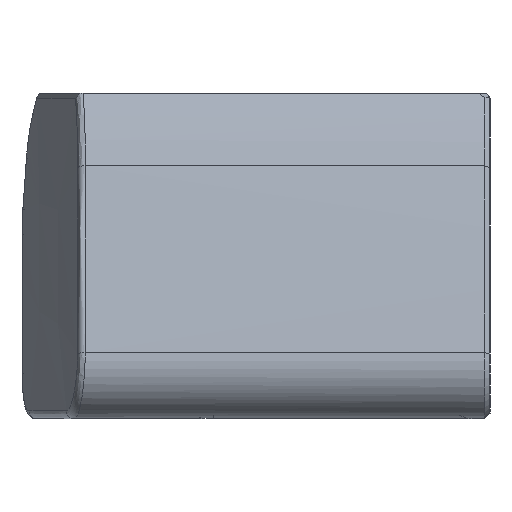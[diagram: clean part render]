
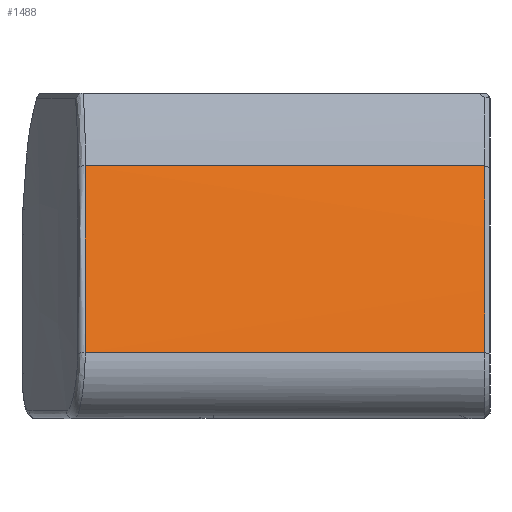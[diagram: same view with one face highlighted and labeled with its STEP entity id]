
A CAD part, left-side view. The second image highlights one B-rep face of the part: STEP entity #1488.
In plain terms, the highlighted cylindrical face has radius 165 mm (diameter 330 mm), a partial arc.
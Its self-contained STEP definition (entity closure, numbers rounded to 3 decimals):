
#93 = EDGE_CURVE ( 'NONE', #3382, #3399, #4064, .T. ) ;
#96 = EDGE_CURVE ( 'NONE', #3399, #3391, #3062, .T. ) ;
#105 = EDGE_CURVE ( 'NONE', #3369, #3382, #582, .T. ) ;
#151 = EDGE_CURVE ( 'NONE', #3391, #3369, #4494, .T. ) ;
#478 = AXIS2_PLACEMENT_3D ( 'NONE', #4091, #4092, #4093 ) ;
#482 = VECTOR ( 'NONE', #4066, 1000. ) ;
#525 = VECTOR ( 'NONE', #4496, 1000. ) ;
#582 = B_SPLINE_CURVE_WITH_KNOTS ( 'NONE', 3,
 ( #4137, #4138, #4139, #4140 ),
 .UNSPECIFIED., .F., .F.,
 ( 4, 4 ),
 ( 0., 0.015 ),
 .UNSPECIFIED. ) ;
#1199 = ORIENTED_EDGE ( 'NONE', *, *, #105, .T. ) ;
#1488 = ADVANCED_FACE ( 'NONE', ( #1940 ), #1947, .T. ) ;
#1940 = FACE_OUTER_BOUND ( 'NONE', #5433, .T. ) ;
#1946 = AXIS2_PLACEMENT_3D ( 'NONE', #5233, #5234, #5235 ) ;
#1947 = CYLINDRICAL_SURFACE ( 'NONE', #1946, 165. ) ;
#2291 = CARTESIAN_POINT ( 'NONE',  ( -153.925, 26.022, 59.43 ) ) ;
#2304 = CARTESIAN_POINT ( 'NONE',  ( -158.719, 26.042, 45.093 ) ) ;
#2313 = CARTESIAN_POINT ( 'NONE',  ( -153.925, -4.6, 59.43 ) ) ;
#2321 = CARTESIAN_POINT ( 'NONE',  ( -158.719, -4.6, 45.093 ) ) ;
#3013 = ORIENTED_EDGE ( 'NONE', *, *, #93, .T. ) ;
#3015 = ORIENTED_EDGE ( 'NONE', *, *, #151, .T. ) ;
#3022 = ORIENTED_EDGE ( 'NONE', *, *, #96, .T. ) ;
#3062 = CIRCLE ( 'NONE', #478, 165. ) ;
#3369 = VERTEX_POINT ( 'NONE', #2291 ) ;
#3382 = VERTEX_POINT ( 'NONE', #2304 ) ;
#3391 = VERTEX_POINT ( 'NONE', #2313 ) ;
#3399 = VERTEX_POINT ( 'NONE', #2321 ) ;
#4064 = LINE ( 'NONE', #4065, #482 ) ;
#4065 = CARTESIAN_POINT ( 'NONE',  ( -158.719, -5., 45.093 ) ) ;
#4066 = DIRECTION ( 'NONE',  ( 0., -1., 0. ) ) ;
#4091 = CARTESIAN_POINT ( 'NONE',  ( 0., -4.6, 0. ) ) ;
#4092 = DIRECTION ( 'NONE',  ( 0., 1., 0. ) ) ;
#4093 = DIRECTION ( 'NONE',  ( 0., 0., 1. ) ) ;
#4137 = CARTESIAN_POINT ( 'NONE',  ( -153.925, 26.022, 59.43 ) ) ;
#4138 = CARTESIAN_POINT ( 'NONE',  ( -155.742, 26.024, 54.725 ) ) ;
#4139 = CARTESIAN_POINT ( 'NONE',  ( -157.34, 26.031, 49.946 ) ) ;
#4140 = CARTESIAN_POINT ( 'NONE',  ( -158.719, 26.042, 45.093 ) ) ;
#4494 = LINE ( 'NONE', #4495, #525 ) ;
#4495 = CARTESIAN_POINT ( 'NONE',  ( -153.925, -5., 59.43 ) ) ;
#4496 = DIRECTION ( 'NONE',  ( 0., 1., 0. ) ) ;
#5233 = CARTESIAN_POINT ( 'NONE',  ( 0., -5., 0. ) ) ;
#5234 = DIRECTION ( 'NONE',  ( 0., 1., 0. ) ) ;
#5235 = DIRECTION ( 'NONE',  ( 0., 0., 1. ) ) ;
#5433 = EDGE_LOOP ( 'NONE', ( #3015, #1199, #3013, #3022 ) ) ;
